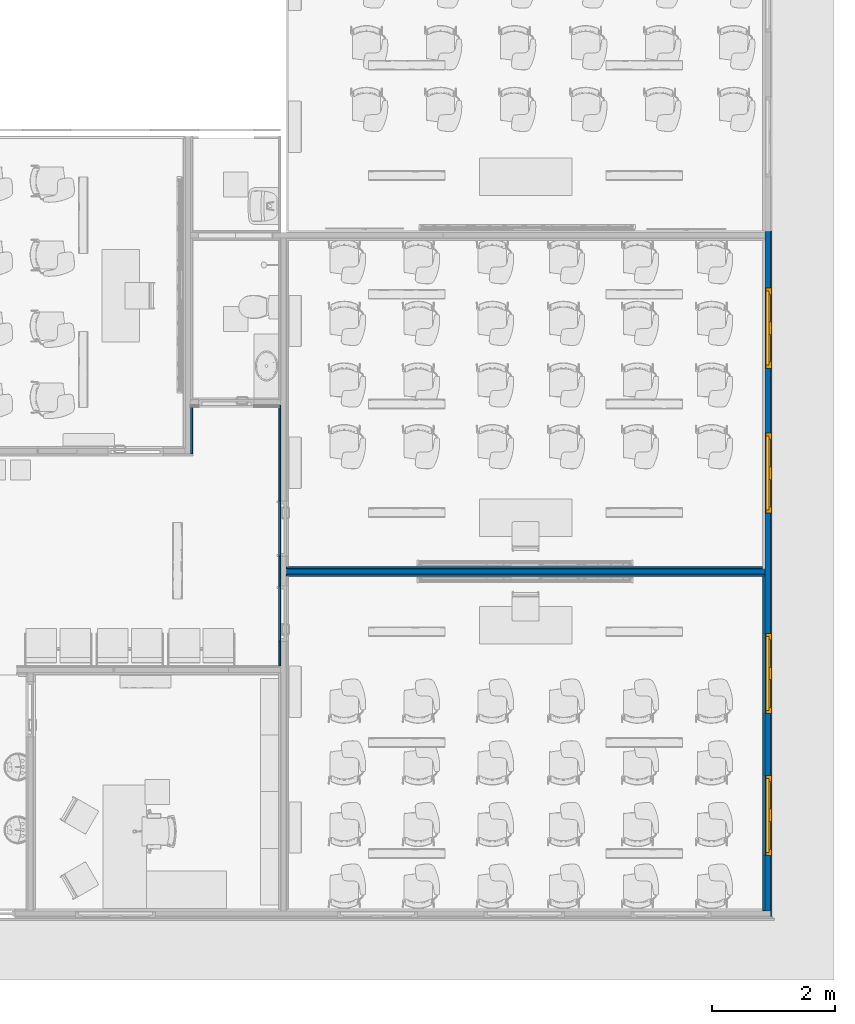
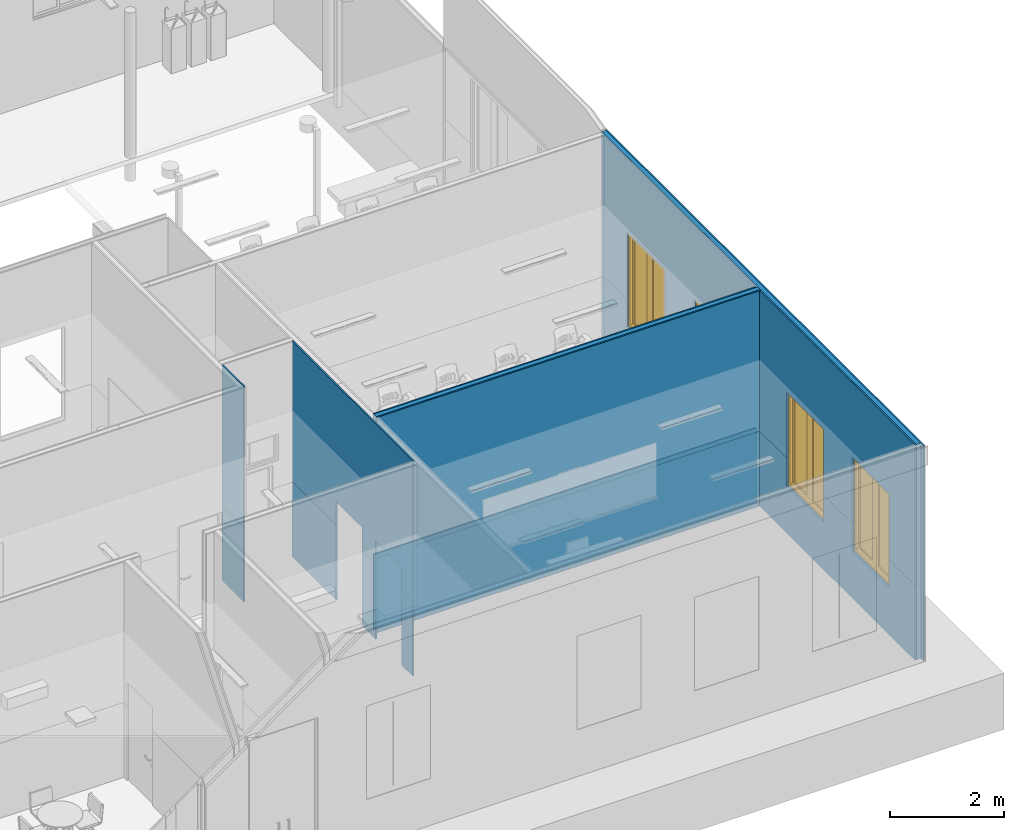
# One storey, part 21 of 155: 13 walls, 4 windows, 20 openings.
"""IFC2X3 building model written with IfcOpenShell, lengths in metres."""

from ifc_helpers import new_model, entity, si_unit, converted_unit, derived_unit, direction, frame, frame_2d, origin, origin_2d_with_axis, place, context, subcontext, project, spatial, polyline, rectangle, outline, extrude, source, transform, mapped, material, layer, layer_set, layer_usage, type_object, type_shapes, element, fill, save


model = new_model("IFC2X3")

# Units and contexts
model_context = context("Model", 3, precision=1e-05, world=origin(), true_north=direction((6.12303176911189e-17, 1.0)))
body_context = subcontext(model_context, "Body", "Model", "MODEL_VIEW")
ifc_project = project(units=[si_unit("LENGTHUNIT", "METRE"), si_unit("AREAUNIT", "SQUARE_METRE"), si_unit("VOLUMEUNIT", "CUBIC_METRE"), converted_unit("PLANEANGLEUNIT", "DEGREE", entity("IfcRatioMeasure", 0.0174532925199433), si_unit("PLANEANGLEUNIT", "RADIAN"), dimensions=[0, 0, 0, 0, 0, 0, 0]), si_unit("MASSUNIT", "GRAM", prefix="KILO"), derived_unit("MASSDENSITYUNIT", [(si_unit("MASSUNIT", "GRAM", prefix="KILO"), 1), (si_unit("LENGTHUNIT", "METRE"), -3)]), si_unit("TIMEUNIT", "SECOND"), si_unit("FREQUENCYUNIT", "HERTZ"), si_unit("THERMODYNAMICTEMPERATUREUNIT", "DEGREE_CELSIUS"), derived_unit("THERMALTRANSMITTANCEUNIT", [(si_unit("MASSUNIT", "GRAM", prefix="KILO"), 1), (si_unit("THERMODYNAMICTEMPERATUREUNIT", "KELVIN"), -1), (si_unit("TIMEUNIT", "SECOND"), -3)]), derived_unit("VOLUMETRICFLOWRATEUNIT", [(si_unit("LENGTHUNIT", "METRE"), 3), (si_unit("TIMEUNIT", "SECOND"), -1)]), si_unit("ELECTRICCURRENTUNIT", "AMPERE"), si_unit("ELECTRICVOLTAGEUNIT", "VOLT"), si_unit("POWERUNIT", "WATT"), si_unit("FORCEUNIT", "NEWTON", prefix="KILO"), si_unit("ILLUMINANCEUNIT", "LUX"), si_unit("LUMINOUSFLUXUNIT", "LUMEN"), si_unit("LUMINOUSINTENSITYUNIT", "CANDELA"), derived_unit("USERDEFINED", [(si_unit("MASSUNIT", "GRAM", prefix="KILO"), -1), (si_unit("LENGTHUNIT", "METRE"), -2), (si_unit("TIMEUNIT", "SECOND"), 3), (si_unit("LUMINOUSFLUXUNIT", "LUMEN"), 1)]), derived_unit("LINEARVELOCITYUNIT", [(si_unit("LENGTHUNIT", "METRE"), 1), (si_unit("TIMEUNIT", "SECOND"), -1)]), si_unit("PRESSUREUNIT", "PASCAL"), derived_unit("USERDEFINED", [(si_unit("LENGTHUNIT", "METRE"), -2), (si_unit("MASSUNIT", "GRAM", prefix="KILO"), 1), (si_unit("TIMEUNIT", "SECOND"), -2)])], contexts=[model_context])

# Site, building, storey
site_placement = place(None, frame((26.9889013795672, -17.5624287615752, 0.0)))
site = spatial("IfcSite", under=ifc_project, at=site_placement, Name="Default", CompositionType="ELEMENT")
building_placement = place(site_placement, origin())
building = spatial("IfcBuilding", under=site, at=building_placement, Name="C. C. L. Monsenhor Antônio Sampaio", CompositionType="ELEMENT")
storey_placement = place(building_placement, frame((0.0, 0.0, 1.19999999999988)))
storey = spatial("IfcBuildingStorey", under=building, at=storey_placement, Name="Nível 1.2", CompositionType="ELEMENT", Elevation=1.19999999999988)

# Wall
ifc_material_1 = material(Name="ALVENARIA")
ifc_layer_1 = layer(ifc_material_1, 0.09)
ifc_layer_set_1 = layer_set([ifc_layer_1], Name="Parede básica:ENucleo parede 15cm")
ifc_layer_usage_1 = layer_usage(ifc_layer_set_1, "AXIS2", "POSITIVE", -0.045)
wall_type_1 = type_object("IfcWallType", Name="Parede básica:ENucleo parede 15cm", PredefinedType="STANDARD", material=ifc_layer_set_1)
wall_1_placement = place(storey_placement, frame((3.84944770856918, -33.828066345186, 0.0)))
element("IfcWallStandardCase", 1, at=wall_1_placement, inside=storey, type_object=wall_type_1, material=ifc_layer_usage_1, Name="Parede básica:ENucleo parede 15cm", ObjectType="Parede básica:ENucleo parede 15cm", context=body_context, shape_type="SweptSolid", body=[
    extrude(rectangle(XDim=7.76000000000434, YDim=0.0899999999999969, at=frame_2d((3.88000000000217, 8.32667268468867e-17), x_axis=(-1.0, 0.0))), origin(), (0.0, 0.0, 1.0), 4.60000000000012),
])

# Wall, openings, windows
ifc_layer_usage_2 = layer_usage(ifc_layer_set_1, "AXIS2", "NEGATIVE", 0.045)
wall_2_placement = place(storey_placement, frame((11.6544477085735, -39.3330663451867, 0.0), z_axis=(0.0, 0.0, 1.0), x_axis=(0.0, 1.0, 0.0)))
wall_2 = element("IfcWallStandardCase", 2, at=wall_2_placement, inside=storey, type_object=wall_type_1, material=ifc_layer_usage_2, Name="Parede básica:ENucleo parede 15cm", ObjectType="Parede básica:ENucleo parede 15cm", context=body_context, shape_type="SweptSolid", body=[
    extrude(rectangle(XDim=11.0150000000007, YDim=0.0900000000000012, at=frame_2d((5.50750000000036, 3.29597460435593e-16), x_axis=(-1.0, 0.0))), origin(), (0.0, 0.0, 1.0), 4.60000000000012),
])
opening_1_placement = place(wall_2_placement, frame((10.1000000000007, 0.0449999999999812, 1.0)))
opening_1 = element("IfcOpeningElement", 3, at=opening_1_placement, cuts=wall_2, Name="Janela levantamento:130 x 200cm 2:1", ObjectType="Opening", context=body_context, shape_type="SweptSolid", body=[
    extrude(rectangle(XDim=2.0, YDim=1.30000000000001, at=frame_2d((0.999999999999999, 0.650000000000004), x_axis=(1.0, 0.0))), frame((0.0, 0.0, 0.0), z_axis=(0.0, -1.0, 0.0), x_axis=(0.0, 0.0, 1.0)), (0.0, 0.0, 1.0), 0.09),
])
opening_2_placement = place(wall_2_placement, frame((7.75000000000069, 0.0449999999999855, 1.0)))
opening_2 = element("IfcOpeningElement", 4, at=opening_2_placement, cuts=wall_2, Name="Janela levantamento:130 x 200cm 2:1", ObjectType="Opening", context=body_context, shape_type="SweptSolid", body=[
    extrude(rectangle(XDim=2.0, YDim=1.30000000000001, at=frame_2d((0.999999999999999, 0.650000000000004), x_axis=(1.0, 0.0))), frame((0.0, 0.0, 0.0), z_axis=(0.0, -1.0, 0.0), x_axis=(0.0, 0.0, 1.0)), (0.0, 0.0, 1.0), 0.09),
])
opening_3_placement = place(wall_2_placement, frame((4.5, 0.0449999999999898, 1.0)))
opening_3 = element("IfcOpeningElement", 5, at=opening_3_placement, cuts=wall_2, Name="Janela levantamento:130 x 200cm 2:1", ObjectType="Opening", context=body_context, shape_type="SweptSolid", body=[
    extrude(rectangle(XDim=2.0, YDim=1.30000000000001, at=frame_2d((0.999999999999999, 0.650000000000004), x_axis=(1.0, 0.0))), frame((0.0, 0.0, 0.0), z_axis=(0.0, -1.0, 0.0), x_axis=(0.0, 0.0, 1.0)), (0.0, 0.0, 1.0), 0.09),
])
opening_4_placement = place(wall_2_placement, frame((2.20000000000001, 0.0449999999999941, 1.0)))
opening_4 = element("IfcOpeningElement", 6, at=opening_4_placement, cuts=wall_2, Name="Janela levantamento:130 x 200cm 2:1", ObjectType="Opening", context=body_context, shape_type="SweptSolid", body=[
    extrude(rectangle(XDim=2.0, YDim=1.30000000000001, at=frame_2d((0.999999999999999, 0.650000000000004), x_axis=(1.0, 0.0))), frame((0.0, 0.0, 0.0), z_axis=(0.0, -1.0, 0.0), x_axis=(0.0, 0.0, 1.0)), (0.0, 0.0, 1.0), 0.09),
])
ifc_material_2 = material(Name="Pintura Azul")
window_style = type_object("IfcWindowStyle", Name="130 x 200cm 2", ConstructionType="NOTDEFINED", OperationType="NOTDEFINED", ParameterTakesPrecedence=False, Sizeable=False, material=ifc_material_2)
shared_shape = source(origin(), body_context, "Body", "SweptSolid", [
    extrude(rectangle(XDim=1.3, YDim=0.0209999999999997, at=frame_2d((0.0, 4.33680868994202e-18), x_axis=(1.0, 0.0))), frame((0.650000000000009, 0.0795000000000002, 0.0)), (0.0, 0.0, 1.0), 0.0299999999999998),
    extrude(outline(polyline([(-0.325000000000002, -1.0), (0.325000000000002, -1.0), (0.325000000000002, 1.0), (-0.325000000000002, 1.0), (-0.325000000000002, -1.0)]), holes=[polyline([(0.225000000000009, -0.899999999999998), (-0.225000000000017, -0.899999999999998), (-0.225000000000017, 0.900000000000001), (0.225000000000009, 0.900000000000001), (0.225000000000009, -0.899999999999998)])]), frame((0.325000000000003, 0.0690000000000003, 1.0), z_axis=(0.0, 1.0, 0.0), x_axis=(1.0, 0.0, 0.0)), (0.0, 0.0, 1.0), 0.04),
    extrude(outline(polyline([(-0.650000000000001, -1.0), (0.650000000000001, -1.0), (0.650000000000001, 1.0), (-0.650000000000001, 1.0), (-0.650000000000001, -1.0)]), holes=[polyline([(-0.599999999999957, -0.949999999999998), (-0.599999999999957, 0.94), (0.600000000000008, 0.94), (0.600000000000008, -0.949999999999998), (-0.599999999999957, -0.949999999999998)])]), frame((0.650000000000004, 0.019, 1.0), z_axis=(0.0, 1.0, 0.0), x_axis=(1.0, 0.0, 0.0)), (0.0, 0.0, 1.0), 0.05),
    extrude(rectangle(XDim=0.0205880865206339, YDim=0.450000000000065, at=origin_2d_with_axis()), frame((0.324999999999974, 0.0987059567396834, 0.0999999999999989), z_axis=(0.0, 0.0, 1.0), x_axis=(0.0, 1.0, 0.0)), (0.0, 0.0, 1.0), 1.8),
    extrude(rectangle(XDim=0.0205880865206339, YDim=0.449999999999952, at=frame_2d((0.0, 4.16333634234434e-17), x_axis=(1.0, 0.0))), frame((0.977826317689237, 0.0987059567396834, 0.100000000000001), z_axis=(0.0, 0.0, 1.0), x_axis=(0.0, 1.0, 0.0)), (0.0, 0.0, 1.0), 1.8),
    extrude(outline(polyline([(-1.0, -0.325000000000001), (1.0, -0.325000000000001), (1.0, 0.325000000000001), (-1.0, 0.325000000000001), (-1.0, -0.325000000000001)]), holes=[polyline([(-0.899999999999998, 0.224999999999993), (0.900000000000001, 0.224999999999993), (0.900000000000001, -0.225000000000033), (-0.899999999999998, -0.225000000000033), (-0.899999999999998, 0.224999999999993)])]), frame((0.975000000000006, 0.0690000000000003, 1.0), z_axis=(0.0, 1.0, 0.0), x_axis=(0.0, 0.0, -1.0)), (0.0, 0.0, 1.0), 0.04),
])
type_shapes(window_style, [shared_shape])
window_1_placement = place(opening_4_placement, frame((0.0, 0.0, 0.0), z_axis=(0.0, 0.0, 1.0), x_axis=(-1.0, 0.0, 0.0)))
window_1 = element("IfcWindow", 7, at=window_1_placement, inside=storey, type_object=window_style, material=ifc_material_2, Name="Janela levantamento:130 x 200cm 2", ObjectType="130 x 200cm 2", OverallHeight=2.0, OverallWidth=1.30000000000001, context=body_context, shape_type="MappedRepresentation", body=[
    mapped(shared_shape, transform((0.0, 0.0, 0.0), scale=1.0)),
])
fill(opening_4, window_1)
window_2_placement = place(opening_3_placement, frame((0.0, 0.0, 0.0), z_axis=(0.0, 0.0, 1.0), x_axis=(-1.0, 0.0, 0.0)))
window_2 = element("IfcWindow", 8, at=window_2_placement, inside=storey, type_object=window_style, material=ifc_material_2, Name="Janela levantamento:130 x 200cm 2", ObjectType="130 x 200cm 2", OverallHeight=2.0, OverallWidth=1.30000000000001, context=body_context, shape_type="MappedRepresentation", body=[
    mapped(shared_shape, transform((0.0, 0.0, 0.0), scale=1.0)),
])
fill(opening_3, window_2)
window_3_placement = place(opening_2_placement, frame((0.0, 0.0, 0.0), z_axis=(0.0, 0.0, 1.0), x_axis=(-1.0, 0.0, 0.0)))
window_3 = element("IfcWindow", 9, at=window_3_placement, inside=storey, type_object=window_style, material=ifc_material_2, Name="Janela levantamento:130 x 200cm 2", ObjectType="130 x 200cm 2", OverallHeight=2.0, OverallWidth=1.30000000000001, context=body_context, shape_type="MappedRepresentation", body=[
    mapped(shared_shape, transform((0.0, 0.0, 0.0), scale=1.0)),
])
fill(opening_2, window_3)
window_4_placement = place(opening_1_placement, frame((0.0, 0.0, 0.0), z_axis=(0.0, 0.0, 1.0), x_axis=(-1.0, 0.0, 0.0)))
window_4 = element("IfcWindow", 10, at=window_4_placement, inside=storey, type_object=window_style, material=ifc_material_2, Name="Janela levantamento:130 x 200cm 2", ObjectType="130 x 200cm 2", OverallHeight=2.0, OverallWidth=1.30000000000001, context=body_context, shape_type="MappedRepresentation", body=[
    mapped(shared_shape, transform((0.0, 0.0, 0.0), scale=1.0)),
])
fill(opening_1, window_4)

# Wall, openings
ifc_material_3 = material(Name=".CERÂMICA 10x10 BRANCA")
ifc_layer_2 = layer(ifc_material_3, 0.0035)
ifc_material_4 = material(Name="Argamassa Colante")
ifc_layer_3 = layer(ifc_material_4, 0.02)
ifc_material_5 = material(Name="4")
ifc_layer_4 = layer(ifc_material_5, 0.0015)
ifc_material_6 = material(Name="3")
ifc_layer_5 = layer(ifc_material_6, 0.005)
ifc_layer_set_2 = layer_set([ifc_layer_2, ifc_layer_3, ifc_layer_4, ifc_layer_5], Name="Parede básica:ECeramica branca 10x10cm")
ifc_layer_usage_3 = layer_usage(ifc_layer_set_2, "AXIS2", "NEGATIVE", 0.015)
wall_type_2 = type_object("IfcWallType", Name="Parede básica:ECeramica branca 10x10cm", PredefinedType="STANDARD", material=ifc_layer_set_2)
wall_3_placement = place(storey_placement, frame((3.74444770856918, -35.3530663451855, 0.0), z_axis=(0.0, 0.0, 1.0), x_axis=(0.0, 1.0, 0.0)))
wall_3 = element("IfcWallStandardCase", 11, at=wall_3_placement, inside=storey, type_object=wall_type_2, material=ifc_layer_usage_3, Name="Parede básica:ECeramica branca 10x10cm", ObjectType="Parede básica:ECeramica branca 10x10cm", context=body_context, shape_type="SweptSolid", body=[
    extrude(rectangle(XDim=4.22000000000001, YDim=0.0299999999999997, at=frame_2d((2.11000000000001, 0.0), x_axis=(-1.0, 0.0))), origin(), (0.0, 0.0, 1.0), 1.6),
])
opening_5_placement = place(wall_3_placement, origin())
element("IfcOpeningElement", 12, at=opening_5_placement, cuts=wall_3, Name="Parede básica:ECeramica branca 10x10cm", ObjectType="Opening", context=body_context, shape_type="SweptSolid", body=[
    extrude(rectangle(XDim=2.09999999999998, YDim=0.899999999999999, at=frame_2d((-3.33066907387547e-16, -2.16493489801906e-15), x_axis=(1.0, 0.0))), frame((2.21999999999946, -1.629, 1.04999999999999), z_axis=(0.0, 1.0, 0.0), x_axis=(0.0, 0.0, 1.0)), (0.0, 0.0, 1.0), 3.048),
])
opening_6_placement = place(wall_3_placement, origin())
element("IfcOpeningElement", 13, at=opening_6_placement, cuts=wall_3, Name="Parede básica:ECeramica branca 10x10cm", ObjectType="Opening", context=body_context, shape_type="SweptSolid", body=[
    extrude(rectangle(XDim=2.09999999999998, YDim=0.899999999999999, at=frame_2d((2.16493489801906e-15, 0.0), x_axis=(0.0, 1.0))), frame((0.839999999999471, -1.629, 1.04999999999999), z_axis=(0.0, 1.0, 0.0), x_axis=(-1.0, 0.0, 0.0)), (0.0, 0.0, 1.0), 3.048),
])

# Walls
ifc_layer_usage_4 = layer_usage(ifc_layer_set_2, "AXIS2", "NEGATIVE", 0.015)
wall_4_placement = place(storey_placement, frame((2.31443400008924, -31.1630663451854, 0.0), z_axis=(0.0, 0.0, 1.0), x_axis=(0.0, -1.0, 0.0)))
element("IfcWallStandardCase", 14, at=wall_4_placement, inside=storey, type_object=wall_type_2, material=ifc_layer_usage_4, Name="Parede básica:ECeramica branca 10x10cm", ObjectType="Parede básica:ECeramica branca 10x10cm", context=body_context, shape_type="SweptSolid", body=[
    extrude(rectangle(XDim=0.759999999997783, YDim=0.0300000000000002, at=frame_2d((0.379999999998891, 0.0), x_axis=(-1.0, 0.0))), origin(), (0.0, 0.0, 1.0), 1.6),
])
ifc_layer_usage_5 = layer_usage(ifc_layer_set_2, "AXIS2", "POSITIVE", -0.015)
wall_5_placement = place(storey_placement, frame((11.5794477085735, -33.768066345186, 0.0), z_axis=(0.0, 0.0, 1.0), x_axis=(-1.0, 0.0, 0.0)))
element("IfcWallStandardCase", 15, at=wall_5_placement, inside=storey, type_object=wall_type_2, material=ifc_layer_usage_5, Name="Parede básica:ECeramica branca 10x10cm", ObjectType="Parede básica:ECeramica branca 10x10cm", context=body_context, shape_type="SweptSolid", body=[
    extrude(rectangle(XDim=7.73000000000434, YDim=0.0300000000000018, at=frame_2d((3.86500000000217, 0.0), x_axis=(-1.0, 0.0))), origin(), (0.0, 0.0, 1.0), 1.6),
])
ifc_layer_usage_6 = layer_usage(ifc_layer_set_2, "AXIS2", "POSITIVE", -0.015)
wall_6_placement = place(storey_placement, frame((3.84944770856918, -33.888066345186, 0.0)))
element("IfcWallStandardCase", 16, at=wall_6_placement, inside=storey, type_object=wall_type_2, material=ifc_layer_usage_6, Name="Parede básica:ECeramica branca 10x10cm", ObjectType="Parede básica:ECeramica branca 10x10cm", context=body_context, shape_type="SweptSolid", body=[
    extrude(rectangle(XDim=7.76000000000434, YDim=0.0300000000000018, at=frame_2d((3.88000000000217, 0.0), x_axis=(-1.0, 0.0))), origin(), (0.0, 0.0, 1.0), 1.6),
])

# Wall, openings
ifc_layer_usage_7 = layer_usage(ifc_layer_set_2, "AXIS2", "POSITIVE", -0.015)
wall_7_placement = place(storey_placement, frame((11.5944477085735, -33.903066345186, 0.0), z_axis=(0.0, 0.0, 1.0), x_axis=(0.0, -1.0, 0.0)))
wall_7 = element("IfcWallStandardCase", 17, at=wall_7_placement, inside=storey, type_object=wall_type_2, material=ifc_layer_usage_7, Name="Parede básica:ECeramica branca 10x10cm", ObjectType="Parede básica:ECeramica branca 10x10cm", context=body_context, shape_type="SweptSolid", body=[
    extrude(rectangle(XDim=5.43000000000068, YDim=0.0300000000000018, at=frame_2d((2.71500000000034, 0.0), x_axis=(-1.0, 0.0))), origin(), (0.0, 0.0, 1.0), 1.6),
])
opening_7_placement = place(wall_7_placement, origin())
element("IfcOpeningElement", 18, at=opening_7_placement, cuts=wall_7, Name="Parede básica:ECeramica branca 10x10cm", ObjectType="Opening", context=body_context, shape_type="SweptSolid", body=[
    extrude(rectangle(XDim=2.0, YDim=1.30000000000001, at=frame_2d((1.66533453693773e-16, 4.32986979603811e-15), x_axis=(1.0, 0.0))), frame((3.88000000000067, -1.509, 2.0), z_axis=(0.0, 1.0, 0.0), x_axis=(0.0, 0.0, 1.0)), (0.0, 0.0, 1.0), 3.048),
])
opening_8_placement = place(wall_7_placement, origin())
element("IfcOpeningElement", 19, at=opening_8_placement, cuts=wall_7, Name="Parede básica:ECeramica branca 10x10cm", ObjectType="Opening", context=body_context, shape_type="SweptSolid", body=[
    extrude(rectangle(XDim=2.0, YDim=1.30000000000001, at=frame_2d((1.66533453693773e-16, 4.32986979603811e-15), x_axis=(1.0, 0.0))), frame((1.58000000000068, -1.509, 2.0), z_axis=(0.0, 1.0, 0.0), x_axis=(0.0, 0.0, 1.0)), (0.0, 0.0, 1.0), 3.048),
])
opening_9_placement = place(wall_7_placement, origin())
element("IfcOpeningElement", 20, at=opening_9_placement, cuts=wall_7, Name="Parede básica:ECeramica branca 10x10cm", ObjectType="Opening", context=body_context, shape_type="SweptSolid", body=[
    extrude(rectangle(XDim=2.0, YDim=1.30000000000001, at=frame_2d((1.66533453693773e-16, 0.0), x_axis=(1.0, 0.0))), frame((-1.67000000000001, -1.509, 2.0), z_axis=(0.0, 1.0, 0.0), x_axis=(0.0, 0.0, 1.0)), (0.0, 0.0, 1.0), 3.048),
])
opening_10_placement = place(wall_7_placement, origin())
element("IfcOpeningElement", 21, at=opening_10_placement, cuts=wall_7, Name="Parede básica:ECeramica branca 10x10cm", ObjectType="Opening", context=body_context, shape_type="SweptSolid", body=[
    extrude(rectangle(XDim=2.0, YDim=1.30000000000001, at=frame_2d((1.66533453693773e-16, 0.0), x_axis=(1.0, 0.0))), frame((-4.02000000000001, -1.509, 2.0), z_axis=(0.0, 1.0, 0.0), x_axis=(0.0, 0.0, 1.0)), (0.0, 0.0, 1.0), 3.048),
])

ifc_material_7 = material(Name="Acabamento Branco")
ifc_layer_6 = layer(ifc_material_7, 0.0035)
ifc_material_8 = material(Name="Massa corrida")
ifc_layer_7 = layer(ifc_material_8, 0.02)
ifc_layer_8 = layer(ifc_material_5, 0.0015)
ifc_layer_9 = layer(ifc_material_6, 0.005)
ifc_layer_set_3 = layer_set([ifc_layer_6, ifc_layer_7, ifc_layer_8, ifc_layer_9], Name="Parede básica:EPintura Branca")
ifc_layer_usage_8 = layer_usage(ifc_layer_set_3, "AXIS2", "NEGATIVE", 0.015)
wall_type_3 = type_object("IfcWallType", Name="Parede básica:EPintura Branca", PredefinedType="STANDARD", material=ifc_layer_set_3)
wall_8_placement = place(storey_placement, frame((3.74444770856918, -35.3530663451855, 1.6), z_axis=(0.0, 0.0, 1.0), x_axis=(0.0, 1.0, 0.0)))
wall_8 = element("IfcWallStandardCase", 22, at=wall_8_placement, inside=storey, type_object=wall_type_3, material=ifc_layer_usage_8, Name="Parede básica:EPintura Branca", ObjectType="Parede básica:EPintura Branca", context=body_context, shape_type="SweptSolid", body=[
    extrude(rectangle(XDim=4.22000000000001, YDim=0.0299999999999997, at=frame_2d((2.11000000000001, 0.0), x_axis=(-1.0, 0.0))), origin(), (0.0, 0.0, 1.0), 3.00000000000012),
])
opening_11_placement = place(wall_8_placement, origin())
element("IfcOpeningElement", 23, at=opening_11_placement, cuts=wall_8, Name="Parede básica:EPintura Branca", ObjectType="Opening", context=body_context, shape_type="SweptSolid", body=[
    extrude(rectangle(XDim=2.09999999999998, YDim=0.899999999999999, at=frame_2d((-3.33066907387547e-16, -2.16493489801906e-15), x_axis=(1.0, 0.0))), frame((2.21999999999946, -1.629, -0.550000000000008), z_axis=(0.0, 1.0, 0.0), x_axis=(0.0, 0.0, 1.0)), (0.0, 0.0, 1.0), 3.048),
])
opening_12_placement = place(wall_8_placement, origin())
element("IfcOpeningElement", 24, at=opening_12_placement, cuts=wall_8, Name="Parede básica:EPintura Branca", ObjectType="Opening", context=body_context, shape_type="SweptSolid", body=[
    extrude(rectangle(XDim=2.09999999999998, YDim=0.899999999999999, at=frame_2d((2.16493489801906e-15, 0.0), x_axis=(0.0, 1.0))), frame((0.839999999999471, -1.629, -0.550000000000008), z_axis=(0.0, 1.0, 0.0), x_axis=(-1.0, 0.0, 0.0)), (0.0, 0.0, 1.0), 3.048),
])

# Walls
ifc_layer_usage_9 = layer_usage(ifc_layer_set_3, "AXIS2", "NEGATIVE", 0.015)
wall_9_placement = place(storey_placement, frame((2.31443400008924, -31.1630663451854, 1.6), z_axis=(0.0, 0.0, 1.0), x_axis=(0.0, -1.0, 0.0)))
element("IfcWallStandardCase", 25, at=wall_9_placement, inside=storey, type_object=wall_type_3, material=ifc_layer_usage_9, Name="Parede básica:EPintura Branca", ObjectType="Parede básica:EPintura Branca", context=body_context, shape_type="SweptSolid", body=[
    extrude(rectangle(XDim=0.759999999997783, YDim=0.0300000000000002, at=frame_2d((0.379999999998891, 0.0), x_axis=(-1.0, 0.0))), origin(), (0.0, 0.0, 1.0), 3.00000000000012),
])
ifc_layer_usage_10 = layer_usage(ifc_layer_set_3, "AXIS2", "POSITIVE", -0.015)
wall_10_placement = place(storey_placement, frame((11.5794477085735, -33.768066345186, 1.6), z_axis=(0.0, 0.0, 1.0), x_axis=(-1.0, 0.0, 0.0)))
element("IfcWallStandardCase", 26, at=wall_10_placement, inside=storey, type_object=wall_type_3, material=ifc_layer_usage_10, Name="Parede básica:EPintura Branca", ObjectType="Parede básica:EPintura Branca", context=body_context, shape_type="SweptSolid", body=[
    extrude(rectangle(XDim=7.73000000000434, YDim=0.0300000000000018, at=frame_2d((3.86500000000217, 0.0), x_axis=(-1.0, 0.0))), origin(), (0.0, 0.0, 1.0), 3.00000000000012),
])
ifc_layer_usage_11 = layer_usage(ifc_layer_set_3, "AXIS2", "POSITIVE", -0.015)
wall_11_placement = place(storey_placement, frame((3.84944770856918, -33.888066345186, 1.6)))
element("IfcWallStandardCase", 27, at=wall_11_placement, inside=storey, type_object=wall_type_3, material=ifc_layer_usage_11, Name="Parede básica:EPintura Branca", ObjectType="Parede básica:EPintura Branca", context=body_context, shape_type="SweptSolid", body=[
    extrude(rectangle(XDim=7.76000000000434, YDim=0.0300000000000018, at=frame_2d((3.88000000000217, 0.0), x_axis=(-1.0, 0.0))), origin(), (0.0, 0.0, 1.0), 3.00000000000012),
])

# Wall, openings
ifc_layer_usage_12 = layer_usage(ifc_layer_set_3, "AXIS2", "POSITIVE", -0.015)
wall_12_placement = place(storey_placement, frame((11.5944477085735, -33.903066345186, 1.6), z_axis=(0.0, 0.0, 1.0), x_axis=(0.0, -1.0, 0.0)))
wall_12 = element("IfcWallStandardCase", 28, at=wall_12_placement, inside=storey, type_object=wall_type_3, material=ifc_layer_usage_12, Name="Parede básica:EPintura Branca", ObjectType="Parede básica:EPintura Branca", context=body_context, shape_type="SweptSolid", body=[
    extrude(rectangle(XDim=5.43000000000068, YDim=0.0300000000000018, at=frame_2d((2.71500000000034, 0.0), x_axis=(-1.0, 0.0))), origin(), (0.0, 0.0, 1.0), 3.00000000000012),
])
opening_13_placement = place(wall_12_placement, origin())
element("IfcOpeningElement", 29, at=opening_13_placement, cuts=wall_12, Name="Parede básica:EPintura Branca", ObjectType="Opening", context=body_context, shape_type="SweptSolid", body=[
    extrude(rectangle(XDim=2.0, YDim=1.30000000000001, at=frame_2d((1.66533453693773e-16, 4.32986979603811e-15), x_axis=(1.0, 0.0))), frame((3.88000000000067, -1.509, 0.400000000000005), z_axis=(0.0, 1.0, 0.0), x_axis=(0.0, 0.0, 1.0)), (0.0, 0.0, 1.0), 3.048),
])
opening_14_placement = place(wall_12_placement, origin())
element("IfcOpeningElement", 30, at=opening_14_placement, cuts=wall_12, Name="Parede básica:EPintura Branca", ObjectType="Opening", context=body_context, shape_type="SweptSolid", body=[
    extrude(rectangle(XDim=2.0, YDim=1.30000000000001, at=frame_2d((1.66533453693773e-16, 4.32986979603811e-15), x_axis=(1.0, 0.0))), frame((1.58000000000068, -1.509, 0.400000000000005), z_axis=(0.0, 1.0, 0.0), x_axis=(0.0, 0.0, 1.0)), (0.0, 0.0, 1.0), 3.048),
])
opening_15_placement = place(wall_12_placement, origin())
element("IfcOpeningElement", 31, at=opening_15_placement, cuts=wall_12, Name="Parede básica:EPintura Branca", ObjectType="Opening", context=body_context, shape_type="SweptSolid", body=[
    extrude(rectangle(XDim=2.0, YDim=1.30000000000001, at=frame_2d((1.66533453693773e-16, 0.0), x_axis=(1.0, 0.0))), frame((-1.67000000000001, -1.509, 0.400000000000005), z_axis=(0.0, 1.0, 0.0), x_axis=(0.0, 0.0, 1.0)), (0.0, 0.0, 1.0), 3.048),
])
opening_16_placement = place(wall_12_placement, origin())
element("IfcOpeningElement", 32, at=opening_16_placement, cuts=wall_12, Name="Parede básica:EPintura Branca", ObjectType="Opening", context=body_context, shape_type="SweptSolid", body=[
    extrude(rectangle(XDim=2.0, YDim=1.30000000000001, at=frame_2d((1.66533453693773e-16, 0.0), x_axis=(1.0, 0.0))), frame((-4.02000000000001, -1.509, 0.400000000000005), z_axis=(0.0, 1.0, 0.0), x_axis=(0.0, 0.0, 1.0)), (0.0, 0.0, 1.0), 3.048),
])

ifc_material_9 = material(Name="Acabamento amarelo")
ifc_layer_10 = layer(ifc_material_9, 0.0035)
ifc_layer_11 = layer(ifc_material_8, 0.02)
ifc_layer_12 = layer(ifc_material_5, 0.0015)
ifc_layer_13 = layer(ifc_material_6, 0.005)
ifc_layer_set_4 = layer_set([ifc_layer_10, ifc_layer_11, ifc_layer_12, ifc_layer_13], Name="Parede básica:EPintura amarela")
ifc_layer_usage_13 = layer_usage(ifc_layer_set_4, "AXIS2", "POSITIVE", -0.015)
wall_type_4 = type_object("IfcWallType", Name="Parede básica:EPintura amarela", PredefinedType="STANDARD", material=ifc_layer_set_4)
wall_13_placement = place(storey_placement, frame((11.7144477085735, -39.4230663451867, 0.0), z_axis=(0.0, 0.0, 1.0), x_axis=(0.0, 1.0, 0.0)))
wall_13 = element("IfcWallStandardCase", 33, at=wall_13_placement, inside=storey, type_object=wall_type_4, material=ifc_layer_usage_13, Name="Parede básica:EPintura amarela", ObjectType="Parede básica:EPintura amarela", context=body_context, shape_type="SweptSolid", body=[
    extrude(rectangle(XDim=11.1200000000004, YDim=0.0300000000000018, at=frame_2d((5.56000000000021, 8.67361737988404e-19), x_axis=(-1.0, 0.0))), origin(), (0.0, 0.0, 1.0), 4.60000000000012),
])
opening_17_placement = place(wall_13_placement, origin())
element("IfcOpeningElement", 34, at=opening_17_placement, cuts=wall_13, Name="Parede básica:EPintura amarela", ObjectType="Opening", context=body_context, shape_type="SweptSolid", body=[
    extrude(rectangle(XDim=2.0, YDim=1.30000000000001, at=frame_2d((0.0, -1.66533453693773e-16), x_axis=(0.0, 1.0))), frame((1.63999999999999, 0.0150000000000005, 2.0), z_axis=(0.0, -1.0, 0.0), x_axis=(-1.0, 0.0, 0.0)), (0.0, 0.0, 1.0), 0.03),
])
opening_18_placement = place(wall_13_placement, origin())
element("IfcOpeningElement", 35, at=opening_18_placement, cuts=wall_13, Name="Parede básica:EPintura amarela", ObjectType="Opening", context=body_context, shape_type="SweptSolid", body=[
    extrude(rectangle(XDim=2.0, YDim=1.30000000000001, at=frame_2d((-2.16493489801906e-15, -1.66533453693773e-16), x_axis=(0.0, 1.0))), frame((3.93999999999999, 0.0149999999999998, 2.0), z_axis=(0.0, -1.0, 0.0), x_axis=(-1.0, 0.0, 0.0)), (0.0, 0.0, 1.0), 0.03),
])
opening_19_placement = place(wall_13_placement, origin())
element("IfcOpeningElement", 36, at=opening_19_placement, cuts=wall_13, Name="Parede básica:EPintura amarela", ObjectType="Opening", context=body_context, shape_type="SweptSolid", body=[
    extrude(rectangle(XDim=2.0, YDim=1.30000000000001, at=frame_2d((0.0, -1.66533453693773e-16), x_axis=(0.0, 1.0))), frame((9.54000000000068, 0.0149999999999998, 2.0), z_axis=(0.0, -1.0, 0.0), x_axis=(-1.0, 0.0, 0.0)), (0.0, 0.0, 1.0), 0.03),
])
opening_20_placement = place(wall_13_placement, origin())
element("IfcOpeningElement", 37, at=opening_20_placement, cuts=wall_13, Name="Parede básica:EPintura amarela", ObjectType="Opening", context=body_context, shape_type="SweptSolid", body=[
    extrude(rectangle(XDim=2.0, YDim=1.30000000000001, at=frame_2d((0.0, -1.66533453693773e-16), x_axis=(0.0, 1.0))), frame((7.19000000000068, 0.0150000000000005, 2.0), z_axis=(0.0, -1.0, 0.0), x_axis=(-1.0, 0.0, 0.0)), (0.0, 0.0, 1.0), 0.03),
])

save(model, "model.ifc")
